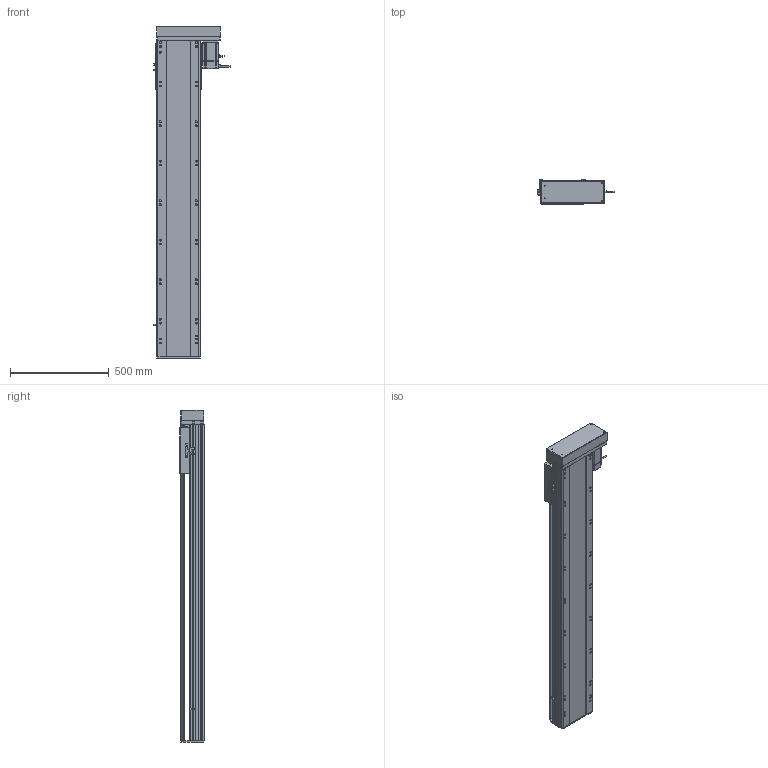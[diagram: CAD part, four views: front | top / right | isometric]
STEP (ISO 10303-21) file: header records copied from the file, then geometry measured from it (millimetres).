
FILE_DESCRIPTION (( 'STEP AP214' ), '1' );
FILE_NAME ('RTH22-XX-1300-L-M75-C4.STEP', '2025-10-24T11:02:31', ( 'Microsoft' ), ( 'Microsoft' ), 'SwSTEP 2.0', 'SolidWorks 2018', '' );
FILE_SCHEMA (( 'AUTOMOTIVE_DESIGN' ));
Length unit declared in the file: millimetre
Products named in the file (10): N_RTH22-L-007奻裔^RTH22-XX-XX-L-M75-C4; N_RTH22-GY-001耜裔^RTH22-XX-XX-L-M75-C4; N_750W萇儂^RTH22-XX-XX-L-M75-C4; N_RTH22-L-004-SFS25賑釱^RTH22-XX-XX-L-M75-C4; N_RTH22-L-018裔赽^RTH22-XX-XX-L-M75-C4; N_RTH22-GY-013外置感应片^RTH22-XX-XX-L-M75-C4; RTH22-XX-1300-L-M75-C4; N_RTH22-L-008-P75萇儂啣^RTH22-XX-XX-L-M75-C4; N_RTH22-L-011菁釱^RTH22-XX-XX-L-M75-C4; N_OMRON EE-SX672 传感器^RTH22-XX-XX-L-M75-C4
Assembly tree (11 placements, depth 2):
  RTH22-XX-1300-L-M75-C4
    N_RTH22-L-011菁釱^RTH22-XX-XX-L-M75-C4
    N_RTH22-GY-001耜裔^RTH22-XX-XX-L-M75-C4
    N_750W萇儂^RTH22-XX-XX-L-M75-C4
    N_RTH22-L-008-P75萇儂啣^RTH22-XX-XX-L-M75-C4
    N_RTH22-L-007奻裔^RTH22-XX-XX-L-M75-C4
    N_RTH22-L-018裔赽^RTH22-XX-XX-L-M75-C4
    N_OMRON EE-SX672 传感器^RTH22-XX-XX-L-M75-C4  x3
    N_RTH22-GY-013外置感应片^RTH22-XX-XX-L-M75-C4
    N_RTH22-L-004-SFS25賑釱^RTH22-XX-XX-L-M75-C4
Bounding box: 384.7 x 122 x 1679.7 mm (x, y, z)
Volume: 22401432.9 mm3; surface area: 2462101.6 mm2
Topology: 11 solids, 11 shells, 1642 faces, 4479 edges, 2881 vertices
Faces by surface type: plane 799, cylinder 494, bspline 279, cone 70
Entity records: 41651 total; most frequent: CARTESIAN_POINT 12558, ORIENTED_EDGE 5910, DIRECTION 5625, EDGE_CURVE 2955, VERTEX_POINT 1917, AXIS2_PLACEMENT_3D 1912, LINE 1801, VECTOR 1801
